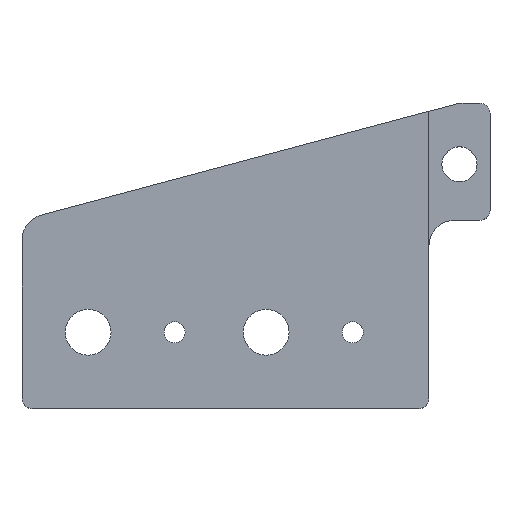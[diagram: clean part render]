
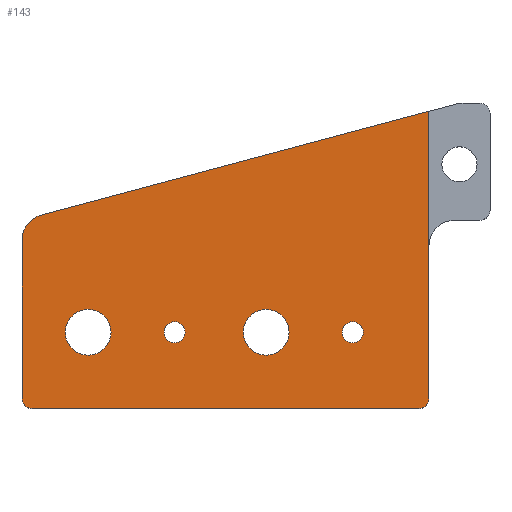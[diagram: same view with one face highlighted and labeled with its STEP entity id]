
A CAD part, top view. The second image highlights one B-rep face of the part: STEP entity #143.
In plain terms, the highlighted planar face has unit normal (0, 0, 1).
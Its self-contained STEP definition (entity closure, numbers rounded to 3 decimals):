
#143=ADVANCED_FACE('',(#386,#388,#390,#392,#394),#396,.T.);
#386=FACE_BOUND('',#387,.T.);
#387=EDGE_LOOP('',(#603,#604,#605,#606,#607,#608,#609));
#388=FACE_BOUND('',#389,.T.);
#389=EDGE_LOOP('',(#610));
#390=FACE_BOUND('',#391,.T.);
#391=EDGE_LOOP('',(#611));
#392=FACE_BOUND('',#393,.T.);
#393=EDGE_LOOP('',(#612));
#394=FACE_BOUND('',#395,.T.);
#395=EDGE_LOOP('',(#613));
#396=PLANE('',#397);
#397=AXIS2_PLACEMENT_3D('',#398,#399,#400);
#398=CARTESIAN_POINT('',(0.,0.,0.));
#399=DIRECTION('',(0.,0.,1.));
#400=DIRECTION('',(-1.,0.,0.));
#603=ORIENTED_EDGE('',*,*,#697,.T.);
#604=ORIENTED_EDGE('',*,*,#718,.T.);
#605=ORIENTED_EDGE('',*,*,#719,.T.);
#606=ORIENTED_EDGE('',*,*,#720,.T.);
#607=ORIENTED_EDGE('',*,*,#721,.T.);
#608=ORIENTED_EDGE('',*,*,#722,.T.);
#609=ORIENTED_EDGE('',*,*,#690,.T.);
#610=ORIENTED_EDGE('',*,*,#723,.F.);
#611=ORIENTED_EDGE('',*,*,#724,.F.);
#612=ORIENTED_EDGE('',*,*,#725,.F.);
#613=ORIENTED_EDGE('',*,*,#726,.F.);
#690=EDGE_CURVE('',#747,#756,#758,.T.);
#697=EDGE_CURVE('',#756,#769,#771,.T.);
#718=EDGE_CURVE('',#769,#804,#805,.T.);
#719=EDGE_CURVE('',#804,#806,#807,.T.);
#720=EDGE_CURVE('',#806,#808,#809,.T.);
#721=EDGE_CURVE('',#808,#810,#811,.T.);
#722=EDGE_CURVE('',#810,#747,#812,.T.);
#723=EDGE_CURVE('',#813,#813,#814,.T.);
#724=EDGE_CURVE('',#815,#815,#816,.T.);
#725=EDGE_CURVE('',#817,#817,#818,.T.);
#726=EDGE_CURVE('',#819,#819,#820,.T.);
#747=VERTEX_POINT('',#856);
#756=VERTEX_POINT('',#873);
#758=LINE('',#877,#878);
#769=VERTEX_POINT('',#902);
#771=LINE('',#906,#907);
#804=VERTEX_POINT('',#989);
#805=CIRCLE('',#990,5.);
#806=VERTEX_POINT('',#994);
#807=LINE('',#995,#996);
#808=VERTEX_POINT('',#998);
#809=CIRCLE('',#999,2.);
#810=VERTEX_POINT('',#1003);
#811=LINE('',#1004,#1005);
#812=CIRCLE('',#1007,2.);
#813=VERTEX_POINT('',#1011);
#814=CIRCLE('',#1012,2.067);
#815=VERTEX_POINT('',#1016);
#816=CIRCLE('',#1017,4.5);
#817=VERTEX_POINT('',#1021);
#818=CIRCLE('',#1022,4.5);
#819=VERTEX_POINT('',#1026);
#820=CIRCLE('',#1027,2.067);
#856=CARTESIAN_POINT('',(80.,2.,0.));
#873=CARTESIAN_POINT('',(80.,58.436,0.));
#877=CARTESIAN_POINT('',(80.,2.,0.));
#878=VECTOR('',#879,1.);
#879=DIRECTION('',(0.,1.,0.));
#902=CARTESIAN_POINT('',(3.706,37.993,0.));
#906=CARTESIAN_POINT('',(80.,58.436,0.));
#907=VECTOR('',#908,1.);
#908=DIRECTION('',(-0.966,-0.259,0.));
#989=CARTESIAN_POINT('',(0.,33.163,0.));
#990=AXIS2_PLACEMENT_3D('',#991,#992,#993);
#991=CARTESIAN_POINT('',(5.,33.163,0.));
#992=DIRECTION('',(0.,0.,1.));
#993=DIRECTION('',(-0.259,0.966,0.));
#994=CARTESIAN_POINT('',(0.,2.,0.));
#995=CARTESIAN_POINT('',(0.,33.163,0.));
#996=VECTOR('',#997,1.);
#997=DIRECTION('',(0.,-1.,0.));
#998=CARTESIAN_POINT('',(2.,0.,0.));
#999=AXIS2_PLACEMENT_3D('',#1000,#1001,#1002);
#1000=CARTESIAN_POINT('',(2.,2.,0.));
#1001=DIRECTION('',(0.,0.,1.));
#1002=DIRECTION('',(-1.,0.,0.));
#1003=CARTESIAN_POINT('',(78.,0.,0.));
#1004=CARTESIAN_POINT('',(2.,0.,0.));
#1005=VECTOR('',#1006,1.);
#1006=DIRECTION('',(1.,0.,0.));
#1007=AXIS2_PLACEMENT_3D('',#1008,#1009,#1010);
#1008=CARTESIAN_POINT('',(78.,2.,0.));
#1009=DIRECTION('',(0.,0.,1.));
#1010=DIRECTION('',(0.,-1.,0.));
#1011=CARTESIAN_POINT('',(62.933,15.,0.));
#1012=AXIS2_PLACEMENT_3D('',#1013,#1014,#1015);
#1013=CARTESIAN_POINT('',(65.,15.,0.));
#1014=DIRECTION('',(0.,0.,1.));
#1015=DIRECTION('',(-1.,0.,0.));
#1016=CARTESIAN_POINT('',(8.5,15.,0.));
#1017=AXIS2_PLACEMENT_3D('',#1018,#1019,#1020);
#1018=CARTESIAN_POINT('',(13.,15.,0.));
#1019=DIRECTION('',(0.,0.,1.));
#1020=DIRECTION('',(-1.,0.,0.));
#1021=CARTESIAN_POINT('',(43.5,15.,0.));
#1022=AXIS2_PLACEMENT_3D('',#1023,#1024,#1025);
#1023=CARTESIAN_POINT('',(48.,15.,0.));
#1024=DIRECTION('',(0.,0.,1.));
#1025=DIRECTION('',(-1.,0.,0.));
#1026=CARTESIAN_POINT('',(27.933,15.,0.));
#1027=AXIS2_PLACEMENT_3D('',#1028,#1029,#1030);
#1028=CARTESIAN_POINT('',(30.,15.,0.));
#1029=DIRECTION('',(0.,0.,1.));
#1030=DIRECTION('',(-1.,0.,0.));
